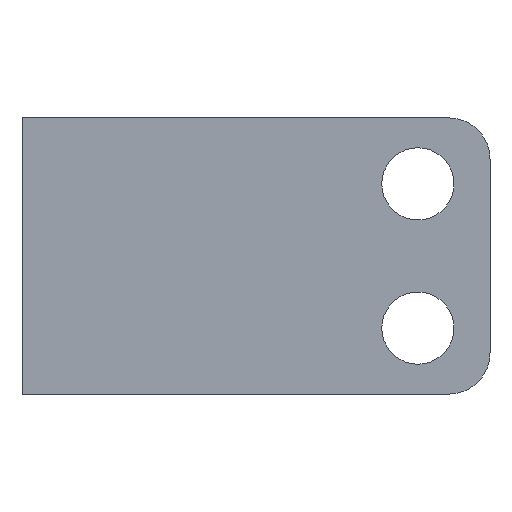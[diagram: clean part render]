
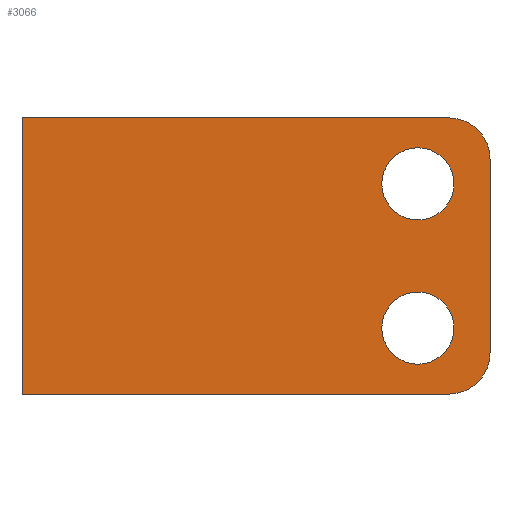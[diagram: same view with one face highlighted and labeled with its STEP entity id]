
A CAD part, front view. The second image highlights one B-rep face of the part: STEP entity #3066.
In plain terms, the highlighted planar face has unit normal (0, -1, 0).
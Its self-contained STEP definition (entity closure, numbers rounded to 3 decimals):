
#36 = EDGE_LOOP ( 'NONE', ( #883, #884 ) ) ;
#37 = EDGE_LOOP ( 'NONE', ( #885, #846, #847, #848, #849, #850 ) ) ;
#75 = DIRECTION ( 'NONE',  ( 0., -1., 0. ) ) ;
#130 = FACE_BOUND ( 'NONE', #386, .T. ) ;
#132 = FACE_BOUND ( 'NONE', #36, .T. ) ;
#134 = FACE_OUTER_BOUND ( 'NONE', #37, .T. ) ;
#159 = DIRECTION ( 'NONE',  ( 0., 0., -1. ) ) ;
#186 = CARTESIAN_POINT ( 'NONE',  ( -12.2, -12.9, 9.7 ) ) ;
#195 = CARTESIAN_POINT ( 'NONE',  ( 8.5, -12.9, -3.7 ) ) ;
#210 = CARTESIAN_POINT ( 'NONE',  ( -12.2, -12.9, -3.7 ) ) ;
#221 = CARTESIAN_POINT ( 'NONE',  ( 10.5, -12.9, -1.7 ) ) ;
#225 = CARTESIAN_POINT ( 'NONE',  ( 7., -12.9, 4.75 ) ) ;
#386 = EDGE_LOOP ( 'NONE', ( #881, #882 ) ) ;
#396 = CARTESIAN_POINT ( 'NONE',  ( 7., -12.9, 8.25 ) ) ;
#399 = CARTESIAN_POINT ( 'NONE',  ( 10.5, -12.9, 7.7 ) ) ;
#411 = CARTESIAN_POINT ( 'NONE',  ( 7., -12.9, -0.5 ) ) ;
#414 = DIRECTION ( 'NONE',  ( 0., 1., 0. ) ) ;
#415 = DIRECTION ( 'NONE',  ( 0., 0., -1. ) ) ;
#444 = CARTESIAN_POINT ( 'NONE',  ( 7., -12.9, 6.5 ) ) ;
#445 = DIRECTION ( 'NONE',  ( 0., 1., 0. ) ) ;
#446 = DIRECTION ( 'NONE',  ( 0., 0., -1. ) ) ;
#846 = ORIENTED_EDGE ( 'NONE', *, *, #1675, .T. ) ;
#847 = ORIENTED_EDGE ( 'NONE', *, *, #1677, .F. ) ;
#848 = ORIENTED_EDGE ( 'NONE', *, *, #892, .T. ) ;
#849 = ORIENTED_EDGE ( 'NONE', *, *, #1676, .F. ) ;
#850 = ORIENTED_EDGE ( 'NONE', *, *, #1671, .F. ) ;
#881 = ORIENTED_EDGE ( 'NONE', *, *, #1674, .T. ) ;
#882 = ORIENTED_EDGE ( 'NONE', *, *, #1651, .T. ) ;
#883 = ORIENTED_EDGE ( 'NONE', *, *, #1672, .T. ) ;
#884 = ORIENTED_EDGE ( 'NONE', *, *, #1636, .T. ) ;
#885 = ORIENTED_EDGE ( 'NONE', *, *, #3315, .T. ) ;
#888 = AXIS2_PLACEMENT_3D ( 'NONE', #411, #414, #415 ) ;
#892 = EDGE_CURVE ( 'NONE', #1021, #2028, #1238, .T. ) ;
#896 = AXIS2_PLACEMENT_3D ( 'NONE', #1043, #75, #159 ) ;
#943 = VERTEX_POINT ( 'NONE', #186 ) ;
#955 = VERTEX_POINT ( 'NONE', #195 ) ;
#975 = VERTEX_POINT ( 'NONE', #210 ) ;
#986 = VERTEX_POINT ( 'NONE', #221 ) ;
#990 = VERTEX_POINT ( 'NONE', #225 ) ;
#1018 = VERTEX_POINT ( 'NONE', #396 ) ;
#1021 = VERTEX_POINT ( 'NONE', #399 ) ;
#1043 = CARTESIAN_POINT ( 'NONE',  ( 8.5, -12.9, 7.7 ) ) ;
#1061 = CARTESIAN_POINT ( 'NONE',  ( -12.2, -12.9, -3.7 ) ) ;
#1065 = CARTESIAN_POINT ( 'NONE',  ( 7., -12.9, -0.5 ) ) ;
#1066 = DIRECTION ( 'NONE',  ( 0., 0., 1. ) ) ;
#1067 = DIRECTION ( 'NONE',  ( 0., 1., 0. ) ) ;
#1068 = DIRECTION ( 'NONE',  ( 0., 0., -1. ) ) ;
#1069 = CARTESIAN_POINT ( 'NONE',  ( 8.5, -12.9, -1.7 ) ) ;
#1072 = CARTESIAN_POINT ( 'NONE',  ( 7., -12.9, 6.5 ) ) ;
#1074 = DIRECTION ( 'NONE',  ( 0., 1., 0. ) ) ;
#1075 = DIRECTION ( 'NONE',  ( 0., 0., -1. ) ) ;
#1076 = DIRECTION ( 'NONE',  ( 0., -1., 0. ) ) ;
#1077 = DIRECTION ( 'NONE',  ( 0., 0., -1. ) ) ;
#1078 = CARTESIAN_POINT ( 'NONE',  ( -3., -12.9, 9.7 ) ) ;
#1079 = DIRECTION ( 'NONE',  ( 1., 0., 0. ) ) ;
#1080 = CARTESIAN_POINT ( 'NONE',  ( 10.5, -12.9, 9.7 ) ) ;
#1081 = DIRECTION ( 'NONE',  ( 0., 0., -1. ) ) ;
#1238 = CIRCLE ( 'NONE', #896, 2. ) ;
#1267 = CIRCLE ( 'NONE', #888, 1.75 ) ;
#1578 = CARTESIAN_POINT ( 'NONE',  ( -3., -12.9, -3.7 ) ) ;
#1579 = DIRECTION ( 'NONE',  ( 1., 0., 0. ) ) ;
#1636 = EDGE_CURVE ( 'NONE', #2023, #2030, #1267, .T. ) ;
#1651 = EDGE_CURVE ( 'NONE', #990, #1018, #2057, .T. ) ;
#1671 = EDGE_CURVE ( 'NONE', #975, #943, #2081, .T. ) ;
#1672 = EDGE_CURVE ( 'NONE', #2030, #2023, #2096, .T. ) ;
#1674 = EDGE_CURVE ( 'NONE', #1018, #990, #2100, .T. ) ;
#1675 = EDGE_CURVE ( 'NONE', #955, #986, #2102, .T. ) ;
#1676 = EDGE_CURVE ( 'NONE', #943, #2028, #2098, .T. ) ;
#1677 = EDGE_CURVE ( 'NONE', #1021, #986, #2103, .T. ) ;
#1901 = LINE ( 'NONE', #1578, #1902 ) ;
#1902 = VECTOR ( 'NONE', #1579, 1000. ) ;
#2023 = VERTEX_POINT ( 'NONE', #2863 ) ;
#2028 = VERTEX_POINT ( 'NONE', #2868 ) ;
#2030 = VERTEX_POINT ( 'NONE', #2870 ) ;
#2057 = CIRCLE ( 'NONE', #3179, 1.75 ) ;
#2081 = LINE ( 'NONE', #1061, #2094 ) ;
#2094 = VECTOR ( 'NONE', #1066, 1000. ) ;
#2096 = CIRCLE ( 'NONE', #3174, 1.75 ) ;
#2098 = LINE ( 'NONE', #1078, #2099 ) ;
#2099 = VECTOR ( 'NONE', #1079, 1000. ) ;
#2100 = CIRCLE ( 'NONE', #3178, 1.75 ) ;
#2102 = CIRCLE ( 'NONE', #3177, 2. ) ;
#2103 = LINE ( 'NONE', #1080, #2104 ) ;
#2104 = VECTOR ( 'NONE', #1081, 1000. ) ;
#2495 = CARTESIAN_POINT ( 'NONE',  ( -3., -12.9, 9.7 ) ) ;
#2500 = PLANE ( 'NONE',  #2600 ) ;
#2501 = DIRECTION ( 'NONE',  ( 0., -1., 0. ) ) ;
#2502 = DIRECTION ( 'NONE',  ( 0., 0., -1. ) ) ;
#2600 = AXIS2_PLACEMENT_3D ( 'NONE', #2495, #2501, #2502 ) ;
#2863 = CARTESIAN_POINT ( 'NONE',  ( 7., -12.9, -2.25 ) ) ;
#2868 = CARTESIAN_POINT ( 'NONE',  ( 8.5, -12.9, 9.7 ) ) ;
#2870 = CARTESIAN_POINT ( 'NONE',  ( 7., -12.9, 1.25 ) ) ;
#3066 = ADVANCED_FACE ( 'NONE', ( #130, #132, #134 ), #2500, .T. ) ;
#3174 = AXIS2_PLACEMENT_3D ( 'NONE', #1065, #1067, #1068 ) ;
#3177 = AXIS2_PLACEMENT_3D ( 'NONE', #1069, #1076, #1077 ) ;
#3178 = AXIS2_PLACEMENT_3D ( 'NONE', #1072, #1074, #1075 ) ;
#3179 = AXIS2_PLACEMENT_3D ( 'NONE', #444, #445, #446 ) ;
#3315 = EDGE_CURVE ( 'NONE', #975, #955, #1901, .T. ) ;
